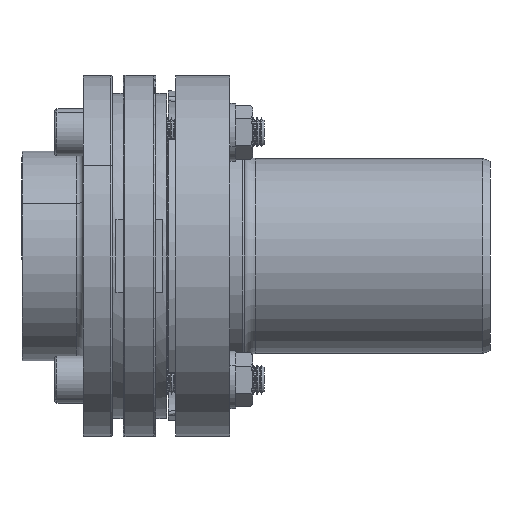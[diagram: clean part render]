
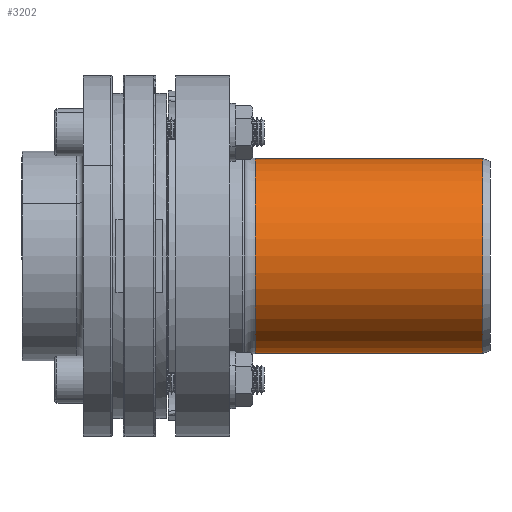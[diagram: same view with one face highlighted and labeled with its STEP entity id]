
A CAD part, left-side view. The second image highlights one B-rep face of the part: STEP entity #3202.
In plain terms, the highlighted cylindrical face has radius 27 mm (diameter 54 mm), a partial arc.
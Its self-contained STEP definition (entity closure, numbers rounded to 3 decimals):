
#2824 = EDGE_CURVE ( 'NONE', #20166, #20167, #16341, .T. ) ;
#2827 = EDGE_CURVE ( 'NONE', #20165, #20166, #4736, .T. ) ;
#2829 = EDGE_CURVE ( 'NONE', #20164, #20167, #4728, .T. ) ;
#2848 = EDGE_CURVE ( 'NONE', #20165, #20164, #16379, .T. ) ;
#3202 = ADVANCED_FACE ( 'NONE', ( #6588 ), #6591, .T. ) ;
#3937 = EDGE_LOOP ( 'NONE', ( #11953, #11954, #11955, #11956 ) ) ;
#4724 = CARTESIAN_POINT ( 'NONE',  ( 0., 88.132, -27. ) ) ;
#4728 = LINE ( 'NONE', #4735, #16352 ) ;
#4729 = CARTESIAN_POINT ( 'NONE',  ( 0., 65., 0. ) ) ;
#4730 = DIRECTION ( 'NONE',  ( 0., 1., 0. ) ) ;
#4731 = DIRECTION ( 'NONE',  ( 0., 0., 1. ) ) ;
#4735 = CARTESIAN_POINT ( 'NONE',  ( 0., 88.132, 27. ) ) ;
#4736 = LINE ( 'NONE', #4724, #16347 ) ;
#4740 = DIRECTION ( 'NONE',  ( 0., 1., 0. ) ) ;
#4745 = DIRECTION ( 'NONE',  ( 0., 1., 0. ) ) ;
#4799 = CARTESIAN_POINT ( 'NONE',  ( 0., 2., 0. ) ) ;
#4800 = DIRECTION ( 'NONE',  ( 0., 1., 0. ) ) ;
#4801 = DIRECTION ( 'NONE',  ( 0., 0., 1. ) ) ;
#6401 = AXIS2_PLACEMENT_3D ( 'NONE', #6589, #6578, #6592 ) ;
#6578 = DIRECTION ( 'NONE',  ( 0., 1., 0. ) ) ;
#6588 = FACE_OUTER_BOUND ( 'NONE', #3937, .T. ) ;
#6589 = CARTESIAN_POINT ( 'NONE',  ( 0., 88.132, 0. ) ) ;
#6591 = CYLINDRICAL_SURFACE ( 'NONE', #6401, 27. ) ;
#6592 = DIRECTION ( 'NONE',  ( 0., 0., 1. ) ) ;
#11953 = ORIENTED_EDGE ( 'NONE', *, *, #2827, .F. ) ;
#11954 = ORIENTED_EDGE ( 'NONE', *, *, #2848, .T. ) ;
#11955 = ORIENTED_EDGE ( 'NONE', *, *, #2829, .T. ) ;
#11956 = ORIENTED_EDGE ( 'NONE', *, *, #2824, .F. ) ;
#16341 = CIRCLE ( 'NONE', #16346, 27. ) ;
#16346 = AXIS2_PLACEMENT_3D ( 'NONE', #4729, #4730, #4731 ) ;
#16347 = VECTOR ( 'NONE', #4740, 1000. ) ;
#16352 = VECTOR ( 'NONE', #4745, 1000. ) ;
#16379 = CIRCLE ( 'NONE', #16385, 27. ) ;
#16385 = AXIS2_PLACEMENT_3D ( 'NONE', #4799, #4800, #4801 ) ;
#17557 = CARTESIAN_POINT ( 'NONE',  ( 0., 2., 27. ) ) ;
#17558 = CARTESIAN_POINT ( 'NONE',  ( 0., 2., -27. ) ) ;
#17559 = CARTESIAN_POINT ( 'NONE',  ( 0., 65., -27. ) ) ;
#17560 = CARTESIAN_POINT ( 'NONE',  ( 0., 65., 27. ) ) ;
#20164 = VERTEX_POINT ( 'NONE', #17557 ) ;
#20165 = VERTEX_POINT ( 'NONE', #17558 ) ;
#20166 = VERTEX_POINT ( 'NONE', #17559 ) ;
#20167 = VERTEX_POINT ( 'NONE', #17560 ) ;
